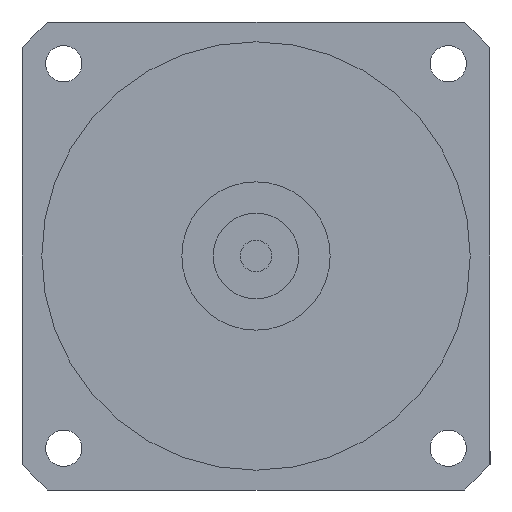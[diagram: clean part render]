
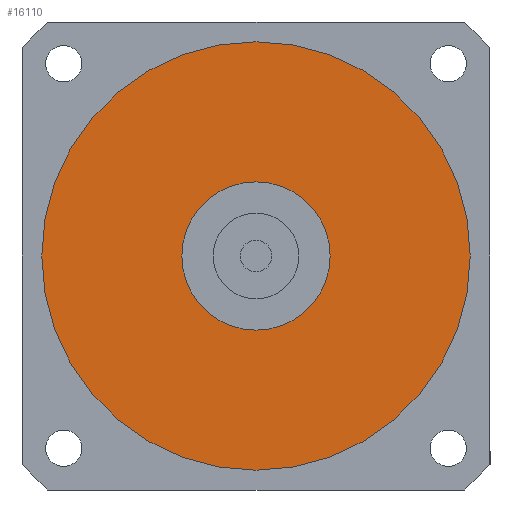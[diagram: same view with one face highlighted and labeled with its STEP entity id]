
A CAD part, left-side view. The second image highlights one B-rep face of the part: STEP entity #16110.
In plain terms, the highlighted planar face has unit normal (-1, 0, 0) as drawn and (0, 0, -1) by its records, which use the part's own axes.
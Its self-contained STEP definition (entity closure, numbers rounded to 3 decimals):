
#15680=CARTESIAN_POINT('',(0.,0.,
-113.5));
#15690=DIRECTION('',(0.,0.,1.));
#15700=DIRECTION('',(-1.,0.,0.));
#15710=AXIS2_PLACEMENT_3D('',#15680,#15690,#15700);
#15720=PLANE('',#15710);
#15730=CARTESIAN_POINT('',(0.,0.,
-113.5));
#15740=DIRECTION('',(0.,0.,1.));
#15750=DIRECTION('',(0.,-1.,0.));
#15760=AXIS2_PLACEMENT_3D('',#15730,#15740,#15750);
#15770=CIRCLE('',#15760,65.);
#15780=CARTESIAN_POINT('',(0.,-65.,-113.5));
#15790=VERTEX_POINT('',#15780);
#15800=CARTESIAN_POINT('',(65.,0.,-113.5));
#15810=VERTEX_POINT('',#15800);
#15820=EDGE_CURVE('',#15790,#15810,#15770,.T.);
#15830=ORIENTED_EDGE('',*,*,#15820,.F.);
#15840=CARTESIAN_POINT('',(-65.,0.,-113.5));
#15850=VERTEX_POINT('',#15840);
#15860=EDGE_CURVE('',#15810,#15850,#15770,.T.);
#15870=ORIENTED_EDGE('',*,*,#15860,.F.);
#15880=EDGE_CURVE('',#15850,#15790,#15770,.T.);
#15890=ORIENTED_EDGE('',*,*,#15880,.F.);
#15900=EDGE_LOOP('',(#15890,#15870,#15830));
#15910=FACE_OUTER_BOUND('',#15900,.T.);
#15920=CARTESIAN_POINT('',(0.,0.,
-113.5));
#15930=DIRECTION('',(0.,0.,1.));
#15940=DIRECTION('',(0.,-1.,0.));
#15950=AXIS2_PLACEMENT_3D('',#15920,#15930,#15940);
#15960=CIRCLE('',#15950,22.5);
#15970=CARTESIAN_POINT('',(22.5,0.,-113.5));
#15980=VERTEX_POINT('',#15970);
#15990=CARTESIAN_POINT('',(-22.5,0.,-113.5));
#16000=VERTEX_POINT('',#15990);
#16010=EDGE_CURVE('',#15980,#16000,#15960,.T.);
#16020=ORIENTED_EDGE('',*,*,#16010,.T.);
#16030=CARTESIAN_POINT('',(0.,-22.5,-113.5));
#16040=VERTEX_POINT('',#16030);
#16050=EDGE_CURVE('',#16040,#15980,#15960,.T.);
#16060=ORIENTED_EDGE('',*,*,#16050,.T.);
#16070=EDGE_CURVE('',#16000,#16040,#15960,.T.);
#16080=ORIENTED_EDGE('',*,*,#16070,.T.);
#16090=EDGE_LOOP('',(#16080,#16060,#16020));
#16100=FACE_BOUND('',#16090,.T.);
#16110=ADVANCED_FACE('',(#15910,#16100),#15720,.F.);
